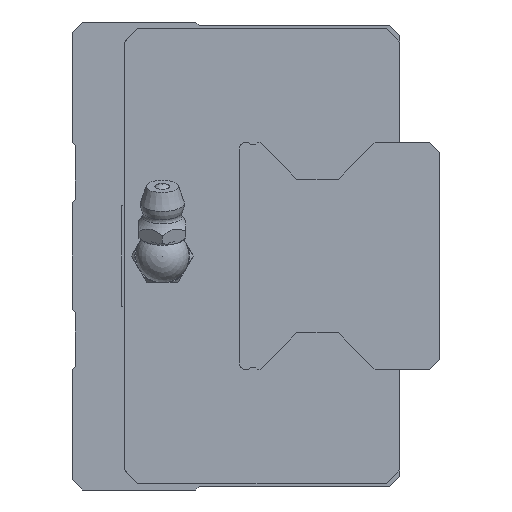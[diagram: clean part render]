
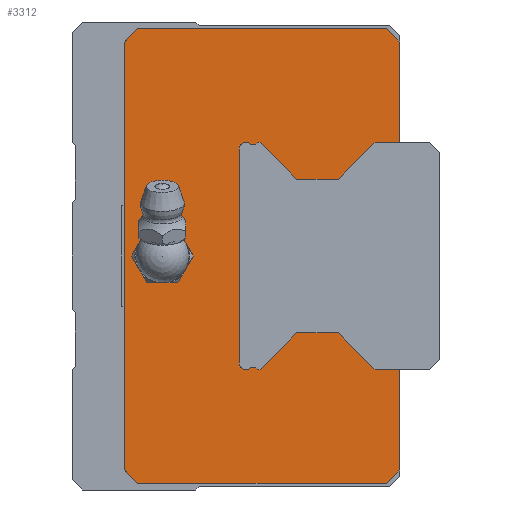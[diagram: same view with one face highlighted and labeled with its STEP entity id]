
A CAD part, left-side view. The second image highlights one B-rep face of the part: STEP entity #3312.
In plain terms, the highlighted planar face has unit normal (-1, 0, 0).
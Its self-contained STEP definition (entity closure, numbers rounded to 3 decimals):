
#169=CIRCLE('',#3588,3.);
#170=CIRCLE('',#3589,1.);
#171=CIRCLE('',#3590,1.);
#580=ORIENTED_EDGE('',*,*,#1342,.T.);
#581=ORIENTED_EDGE('',*,*,#1343,.T.);
#582=ORIENTED_EDGE('',*,*,#1336,.F.);
#583=ORIENTED_EDGE('',*,*,#1310,.F.);
#584=ORIENTED_EDGE('',*,*,#1306,.F.);
#585=ORIENTED_EDGE('',*,*,#1298,.F.);
#586=ORIENTED_EDGE('',*,*,#1328,.F.);
#587=ORIENTED_EDGE('',*,*,#1284,.F.);
#588=ORIENTED_EDGE('',*,*,#1321,.F.);
#589=ORIENTED_EDGE('',*,*,#1318,.F.);
#590=ORIENTED_EDGE('',*,*,#1338,.F.);
#591=ORIENTED_EDGE('',*,*,#1344,.T.);
#592=ORIENTED_EDGE('',*,*,#1345,.T.);
#593=ORIENTED_EDGE('',*,*,#1346,.T.);
#594=ORIENTED_EDGE('',*,*,#1347,.T.);
#595=ORIENTED_EDGE('',*,*,#1348,.T.);
#596=ORIENTED_EDGE('',*,*,#1349,.T.);
#597=ORIENTED_EDGE('',*,*,#1350,.T.);
#598=ORIENTED_EDGE('',*,*,#1351,.T.);
#599=ORIENTED_EDGE('',*,*,#1352,.T.);
#600=ORIENTED_EDGE('',*,*,#1353,.T.);
#601=ORIENTED_EDGE('',*,*,#1354,.T.);
#602=ORIENTED_EDGE('',*,*,#1355,.T.);
#603=ORIENTED_EDGE('',*,*,#1356,.T.);
#604=ORIENTED_EDGE('',*,*,#1357,.T.);
#605=ORIENTED_EDGE('',*,*,#1358,.T.);
#606=ORIENTED_EDGE('',*,*,#1359,.T.);
#1284=EDGE_CURVE('',#1696,#1697,#2019,.T.);
#1298=EDGE_CURVE('',#1709,#1710,#2033,.T.);
#1306=EDGE_CURVE('',#1710,#1716,#2040,.T.);
#1310=EDGE_CURVE('',#1716,#1718,#2044,.T.);
#1318=EDGE_CURVE('',#1725,#1726,#2052,.T.);
#1321=EDGE_CURVE('',#1726,#1696,#2055,.T.);
#1328=EDGE_CURVE('',#1697,#1709,#2061,.T.);
#1336=EDGE_CURVE('',#1718,#1731,#2069,.T.);
#1338=EDGE_CURVE('',#1733,#1725,#2071,.T.);
#1342=EDGE_CURVE('',#1736,#1736,#169,.T.);
#1343=EDGE_CURVE('',#1737,#1731,#2075,.T.);
#1344=EDGE_CURVE('',#1733,#1738,#2076,.T.);
#1345=EDGE_CURVE('',#1738,#1739,#2077,.T.);
#1346=EDGE_CURVE('',#1739,#1740,#2078,.T.);
#1347=EDGE_CURVE('',#1740,#1741,#2079,.T.);
#1348=EDGE_CURVE('',#1741,#1742,#2080,.T.);
#1349=EDGE_CURVE('',#1742,#1743,#2081,.T.);
#1350=EDGE_CURVE('',#1743,#1744,#2082,.T.);
#1351=EDGE_CURVE('',#1744,#1745,#170,.T.);
#1352=EDGE_CURVE('',#1745,#1746,#2083,.T.);
#1353=EDGE_CURVE('',#1746,#1747,#171,.T.);
#1354=EDGE_CURVE('',#1747,#1748,#2084,.T.);
#1355=EDGE_CURVE('',#1748,#1749,#2085,.T.);
#1356=EDGE_CURVE('',#1749,#1750,#2086,.T.);
#1357=EDGE_CURVE('',#1750,#1751,#2087,.T.);
#1358=EDGE_CURVE('',#1751,#1752,#2088,.T.);
#1359=EDGE_CURVE('',#1752,#1737,#2089,.T.);
#1696=VERTEX_POINT('',#5070);
#1697=VERTEX_POINT('',#5072);
#1709=VERTEX_POINT('',#5098);
#1710=VERTEX_POINT('',#5100);
#1716=VERTEX_POINT('',#5116);
#1718=VERTEX_POINT('',#5123);
#1725=VERTEX_POINT('',#5138);
#1726=VERTEX_POINT('',#5140);
#1731=VERTEX_POINT('',#5165);
#1733=VERTEX_POINT('',#5173);
#1736=VERTEX_POINT('',#5182);
#1737=VERTEX_POINT('',#5184);
#1738=VERTEX_POINT('',#5186);
#1739=VERTEX_POINT('',#5188);
#1740=VERTEX_POINT('',#5190);
#1741=VERTEX_POINT('',#5192);
#1742=VERTEX_POINT('',#5194);
#1743=VERTEX_POINT('',#5196);
#1744=VERTEX_POINT('',#5198);
#1745=VERTEX_POINT('',#5200);
#1746=VERTEX_POINT('',#5202);
#1747=VERTEX_POINT('',#5204);
#1748=VERTEX_POINT('',#5206);
#1749=VERTEX_POINT('',#5208);
#1750=VERTEX_POINT('',#5210);
#1751=VERTEX_POINT('',#5212);
#1752=VERTEX_POINT('',#5214);
#2019=LINE('',#5071,#2343);
#2033=LINE('',#5099,#2357);
#2040=LINE('',#5115,#2364);
#2044=LINE('',#5122,#2368);
#2052=LINE('',#5139,#2376);
#2055=LINE('',#5144,#2379);
#2061=LINE('',#5155,#2385);
#2069=LINE('',#5170,#2393);
#2071=LINE('',#5175,#2395);
#2075=LINE('',#5183,#2399);
#2076=LINE('',#5185,#2400);
#2077=LINE('',#5187,#2401);
#2078=LINE('',#5189,#2402);
#2079=LINE('',#5191,#2403);
#2080=LINE('',#5193,#2404);
#2081=LINE('',#5195,#2405);
#2082=LINE('',#5197,#2406);
#2083=LINE('',#5201,#2407);
#2084=LINE('',#5205,#2408);
#2085=LINE('',#5207,#2409);
#2086=LINE('',#5209,#2410);
#2087=LINE('',#5211,#2411);
#2088=LINE('',#5213,#2412);
#2089=LINE('',#5215,#2413);
#2343=VECTOR('',#4100,1000.);
#2357=VECTOR('',#4116,1000.);
#2364=VECTOR('',#4129,1000.);
#2368=VECTOR('',#4135,1000.);
#2376=VECTOR('',#4145,1000.);
#2379=VECTOR('',#4150,1000.);
#2385=VECTOR('',#4164,1000.);
#2393=VECTOR('',#4176,1000.);
#2395=VECTOR('',#4180,1000.);
#2399=VECTOR('',#4188,1000.);
#2400=VECTOR('',#4189,1000.);
#2401=VECTOR('',#4190,1000.);
#2402=VECTOR('',#4191,1000.);
#2403=VECTOR('',#4192,1000.);
#2404=VECTOR('',#4193,1000.);
#2405=VECTOR('',#4194,1000.);
#2406=VECTOR('',#4195,1000.);
#2407=VECTOR('',#4198,1000.);
#2408=VECTOR('',#4201,1000.);
#2409=VECTOR('',#4202,1000.);
#2410=VECTOR('',#4203,1000.);
#2411=VECTOR('',#4204,1000.);
#2412=VECTOR('',#4205,1000.);
#2413=VECTOR('',#4206,1000.);
#2640=EDGE_LOOP('',(#580));
#2641=EDGE_LOOP('',(#581,#582,#583,#584,#585,#586,#587,#588,#589,#590,#591,
#592,#593,#594,#595,#596,#597,#598,#599,#600,#601,#602,#603,#604,#605,#606));
#2923=FACE_BOUND('',#2640,.T.);
#2924=FACE_BOUND('',#2641,.T.);
#3159=PLANE('',#3587);
#3312=ADVANCED_FACE('',(#2923,#2924),#3159,.F.);
#3587=AXIS2_PLACEMENT_3D('',#5180,#4184,#4185);
#3588=AXIS2_PLACEMENT_3D('',#5181,#4186,#4187);
#3589=AXIS2_PLACEMENT_3D('',#5199,#4196,#4197);
#3590=AXIS2_PLACEMENT_3D('',#5203,#4199,#4200);
#4100=DIRECTION('',(0.,0.707,0.707));
#4116=DIRECTION('',(0.,-0.707,0.707));
#4129=DIRECTION('',(0.,-1.,0.));
#4135=DIRECTION('',(0.,-0.707,-0.707));
#4145=DIRECTION('',(0.,0.707,-0.707));
#4150=DIRECTION('',(0.,1.,0.));
#4164=DIRECTION('',(0.,0.,1.));
#4176=DIRECTION('',(0.,0.,-1.));
#4180=DIRECTION('',(0.,0.,-1.));
#4184=DIRECTION('',(1.,0.,0.));
#4185=DIRECTION('',(0.,0.,-1.));
#4186=DIRECTION('',(1.,0.,0.));
#4187=DIRECTION('',(0.,0.,-1.));
#4188=DIRECTION('',(0.,-1.,0.));
#4189=DIRECTION('',(0.,1.,0.));
#4190=DIRECTION('',(0.,0.707,0.707));
#4191=DIRECTION('',(0.,1.,0.));
#4192=DIRECTION('',(0.,0.707,-0.707));
#4193=DIRECTION('',(0.,1.,0.));
#4194=DIRECTION('',(0.,0.707,0.707));
#4195=DIRECTION('',(0.,1.,0.));
#4196=DIRECTION('',(1.,0.,0.));
#4197=DIRECTION('',(0.,0.,-1.));
#4198=DIRECTION('',(0.,0.,1.));
#4199=DIRECTION('',(1.,0.,0.));
#4200=DIRECTION('',(0.,0.,-1.));
#4201=DIRECTION('',(0.,-1.,0.));
#4202=DIRECTION('',(0.,-0.707,0.707));
#4203=DIRECTION('',(0.,-1.,0.));
#4204=DIRECTION('',(0.,-0.707,-0.707));
#4205=DIRECTION('',(0.,-1.,0.));
#4206=DIRECTION('',(0.,-0.707,0.707));
#5070=CARTESIAN_POINT('',(-77.5,39.2,-34.));
#5071=CARTESIAN_POINT('',(-77.5,39.2,-34.));
#5072=CARTESIAN_POINT('',(-77.5,41.2,-32.));
#5098=CARTESIAN_POINT('',(-77.5,41.2,32.));
#5099=CARTESIAN_POINT('',(-77.5,41.2,32.));
#5100=CARTESIAN_POINT('',(-77.5,39.2,34.));
#5115=CARTESIAN_POINT('',(-77.5,39.2,34.));
#5116=CARTESIAN_POINT('',(-77.5,2.,34.));
#5122=CARTESIAN_POINT('',(-77.5,2.,34.));
#5123=CARTESIAN_POINT('',(-77.5,0.,32.));
#5138=CARTESIAN_POINT('',(-77.5,0.,-32.));
#5139=CARTESIAN_POINT('',(-77.5,0.,-32.));
#5140=CARTESIAN_POINT('',(-77.5,2.,-34.));
#5144=CARTESIAN_POINT('',(-77.5,2.,-34.));
#5155=CARTESIAN_POINT('',(-77.5,41.2,-32.));
#5165=CARTESIAN_POINT('',(-77.5,0.,17.));
#5170=CARTESIAN_POINT('',(-77.5,0.,32.));
#5173=CARTESIAN_POINT('',(-77.5,0.,-17.));
#5175=CARTESIAN_POINT('',(-77.5,0.,32.));
#5180=CARTESIAN_POINT('',(-77.5,0.,0.));
#5181=CARTESIAN_POINT('',(-77.5,35.5,0.));
#5182=CARTESIAN_POINT('',(-77.5,35.5,-3.));
#5183=CARTESIAN_POINT('',(-77.5,3.7,17.));
#5184=CARTESIAN_POINT('',(-77.5,3.7,17.));
#5185=CARTESIAN_POINT('',(-77.5,-4.5,-17.));
#5186=CARTESIAN_POINT('',(-77.5,3.7,-17.));
#5187=CARTESIAN_POINT('',(-77.5,3.7,-17.));
#5188=CARTESIAN_POINT('',(-77.5,9.2,-11.5));
#5189=CARTESIAN_POINT('',(-77.5,9.2,-11.5));
#5190=CARTESIAN_POINT('',(-77.5,15.4,-11.5));
#5191=CARTESIAN_POINT('',(-77.5,15.4,-11.5));
#5192=CARTESIAN_POINT('',(-77.5,20.9,-17.));
#5193=CARTESIAN_POINT('',(-77.5,20.9,-17.));
#5194=CARTESIAN_POINT('',(-77.5,21.25,-17.));
#5195=CARTESIAN_POINT('',(-77.5,21.25,-17.));
#5196=CARTESIAN_POINT('',(-77.5,21.5,-16.75));
#5197=CARTESIAN_POINT('',(-77.5,21.5,-16.75));
#5198=CARTESIAN_POINT('',(-77.5,22.339,-16.75));
#5199=CARTESIAN_POINT('',(-77.5,23.,-16.));
#5200=CARTESIAN_POINT('',(-77.5,24.,-16.));
#5201=CARTESIAN_POINT('',(-77.5,24.,-16.));
#5202=CARTESIAN_POINT('',(-77.5,24.,16.));
#5203=CARTESIAN_POINT('',(-77.5,23.,16.));
#5204=CARTESIAN_POINT('',(-77.5,22.339,16.75));
#5205=CARTESIAN_POINT('',(-77.5,22.339,16.75));
#5206=CARTESIAN_POINT('',(-77.5,21.5,16.75));
#5207=CARTESIAN_POINT('',(-77.5,21.5,16.75));
#5208=CARTESIAN_POINT('',(-77.5,21.25,17.));
#5209=CARTESIAN_POINT('',(-77.5,21.25,17.));
#5210=CARTESIAN_POINT('',(-77.5,20.9,17.));
#5211=CARTESIAN_POINT('',(-77.5,20.9,17.));
#5212=CARTESIAN_POINT('',(-77.5,15.4,11.5));
#5213=CARTESIAN_POINT('',(-77.5,15.4,11.5));
#5214=CARTESIAN_POINT('',(-77.5,9.2,11.5));
#5215=CARTESIAN_POINT('',(-77.5,9.2,11.5));
